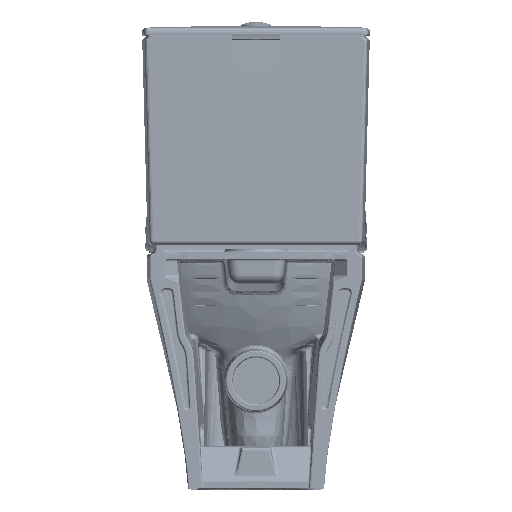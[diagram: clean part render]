
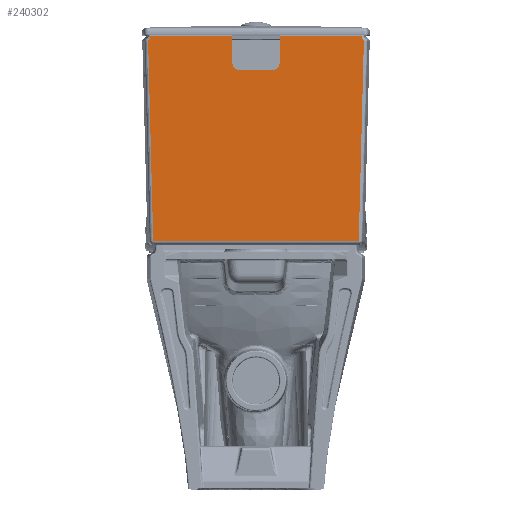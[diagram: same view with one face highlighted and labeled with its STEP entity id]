
A CAD part, left-side view. The second image highlights one B-rep face of the part: STEP entity #240302.
In plain terms, the highlighted planar face has unit normal (-1, 0, 0).
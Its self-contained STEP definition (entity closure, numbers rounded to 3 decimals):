
#239886=CARTESIAN_POINT('',(0.,174.027,19.));
#239887=VERTEX_POINT('',#239886);
#239888=CARTESIAN_POINT('',(0.,182.679,358.009));
#239889=VERTEX_POINT('',#239888);
#239890=CARTESIAN_POINT('',(0.,174.027,19.));
#239891=CARTESIAN_POINT('',(0.,175.758,86.802));
#239892=CARTESIAN_POINT('',(0.,177.488,154.604));
#239893=CARTESIAN_POINT('',(0.,179.218,222.405));
#239894=CARTESIAN_POINT('',(0.,180.949,290.207));
#239895=CARTESIAN_POINT('',(0.,182.679,358.009));
#239896=B_SPLINE_CURVE_WITH_KNOTS('',5,(#239890,#239891,#239892,#239893,#239894,#239895),.UNSPECIFIED.,.F.,.U.,(6,6),(131.193,470.313),.UNSPECIFIED.);
#239897=EDGE_CURVE('',#239887,#239889,#239896,.T.);
#240185=CARTESIAN_POINT('',(0.0,0.0,15.0));
#240186=DIRECTION('',(-1.0,0.0,0.0));
#240187=DIRECTION('',(0.0,0.0,1.0));
#240188=AXIS2_PLACEMENT_3D('',#240185,#240186,#240187);
#240189=PLANE('',#240188);
#240190=CARTESIAN_POINT('',(0.0,-40.0,320.0));
#240191=VERTEX_POINT('',#240190);
#240192=CARTESIAN_POINT('',(0.0,-28.,308.0));
#240193=VERTEX_POINT('',#240192);
#240194=CARTESIAN_POINT('',(0.0,-28.,320.0));
#240195=DIRECTION('',(-1.0,0.0,0.0));
#240196=DIRECTION('',(0.0,1.0,0.0));
#240197=AXIS2_PLACEMENT_3D('',#240194,#240195,#240196);
#240198=CIRCLE('',#240197,12.);
#240199=EDGE_CURVE('',#240191,#240193,#240198,.F.);
#240200=ORIENTED_EDGE('',*,*,#240199,.T.);
#240201=CARTESIAN_POINT('',(0.0,28.,308.0));
#240202=VERTEX_POINT('',#240201);
#240203=CARTESIAN_POINT('',(0.0,-28.,308.0));
#240204=DIRECTION('',(0.0,1.0,0.0));
#240205=VECTOR('',#240204,56.);
#240206=LINE('',#240203,#240205);
#240207=EDGE_CURVE('',#240193,#240202,#240206,.T.);
#240208=ORIENTED_EDGE('',*,*,#240207,.T.);
#240209=CARTESIAN_POINT('',(0.0,40.0,320.0));
#240210=VERTEX_POINT('',#240209);
#240211=CARTESIAN_POINT('',(0.0,28.,320.));
#240212=DIRECTION('',(1.0,0.0,0.0));
#240213=DIRECTION('',(0.0,1.0,0.0));
#240214=AXIS2_PLACEMENT_3D('',#240211,#240212,#240213);
#240215=CIRCLE('',#240214,12.);
#240216=EDGE_CURVE('',#240202,#240210,#240215,.T.);
#240217=ORIENTED_EDGE('',*,*,#240216,.T.);
#240218=CARTESIAN_POINT('',(0.0,40.0,366.));
#240219=VERTEX_POINT('',#240218);
#240220=CARTESIAN_POINT('',(0.0,40.0,320.0));
#240221=DIRECTION('',(0.0,0.0,1.0));
#240222=VECTOR('',#240221,46.);
#240223=LINE('',#240220,#240222);
#240224=EDGE_CURVE('',#240210,#240219,#240223,.T.);
#240225=ORIENTED_EDGE('',*,*,#240224,.T.);
#240226=CARTESIAN_POINT('',(0.,178.681,366.));
#240227=VERTEX_POINT('',#240226);
#240228=CARTESIAN_POINT('',(0.0,178.681,366.));
#240229=DIRECTION('',(0.0,-1.0,0.0));
#240230=VECTOR('',#240229,138.681);
#240231=LINE('',#240228,#240230);
#240232=EDGE_CURVE('',#240219,#240227,#240231,.F.);
#240233=ORIENTED_EDGE('',*,*,#240232,.T.);
#240234=CARTESIAN_POINT('',(0.0,178.841,364.475));
#240235=VERTEX_POINT('',#240234);
#240236=CARTESIAN_POINT('',(0.0,178.681,366.));
#240237=DIRECTION('',(0.0,0.105,-0.995));
#240238=VECTOR('',#240237,1.534);
#240239=LINE('',#240236,#240238);
#240240=EDGE_CURVE('',#240227,#240235,#240239,.T.);
#240241=ORIENTED_EDGE('',*,*,#240240,.T.);
#240242=CARTESIAN_POINT('',(0.,187.767,365.399));
#240243=DIRECTION('',(1.0,0.,0.));
#240244=DIRECTION('',(0.,-0.581,0.814));
#240245=AXIS2_PLACEMENT_3D('',#240242,#240243,#240244);
#240246=ELLIPSE('',#240245,8.986,8.97);
#240247=EDGE_CURVE('',#240235,#239889,#240246,.T.);
#240248=ORIENTED_EDGE('',*,*,#240247,.T.);
#240249=ORIENTED_EDGE('',*,*,#239897,.F.);
#240250=CARTESIAN_POINT('',(0.,-174.027,19.));
#240251=VERTEX_POINT('',#240250);
#240252=CARTESIAN_POINT('',(0.0,174.027,19.));
#240253=DIRECTION('',(0.0,-1.0,0.));
#240254=VECTOR('',#240253,348.055);
#240255=LINE('',#240252,#240254);
#240256=EDGE_CURVE('',#239887,#240251,#240255,.T.);
#240257=ORIENTED_EDGE('',*,*,#240256,.T.);
#240258=CARTESIAN_POINT('',(0.0,-182.679,358.009));
#240259=VERTEX_POINT('',#240258);
#240260=CARTESIAN_POINT('',(0.0,-174.027,19.0));
#240261=CARTESIAN_POINT('',(0.0,-175.758,86.802));
#240262=CARTESIAN_POINT('',(0.0,-177.488,154.604));
#240263=CARTESIAN_POINT('',(0.0,-179.218,222.406));
#240264=CARTESIAN_POINT('',(0.0,-180.949,290.207));
#240265=CARTESIAN_POINT('',(0.0,-182.679,358.009));
#240266=B_SPLINE_CURVE_WITH_KNOTS('',5,(#240260,#240261,#240262,#240263,#240264,#240265),.UNSPECIFIED.,.F.,.U.,(6,6),(0.0,479.588),.UNSPECIFIED.);
#240267=EDGE_CURVE('',#240251,#240259,#240266,.T.);
#240268=ORIENTED_EDGE('',*,*,#240267,.T.);
#240269=CARTESIAN_POINT('',(0.,-178.841,364.475));
#240270=VERTEX_POINT('',#240269);
#240271=CARTESIAN_POINT('',(0.,-187.767,365.399));
#240272=DIRECTION('',(-1.0,0.,0.));
#240273=DIRECTION('',(0.,-0.581,-0.814));
#240274=AXIS2_PLACEMENT_3D('',#240271,#240272,#240273);
#240275=ELLIPSE('',#240274,8.986,8.97);
#240276=EDGE_CURVE('',#240270,#240259,#240275,.T.);
#240277=ORIENTED_EDGE('',*,*,#240276,.F.);
#240278=CARTESIAN_POINT('',(0.,-178.681,366.));
#240279=VERTEX_POINT('',#240278);
#240280=CARTESIAN_POINT('',(0.0,-178.841,364.475));
#240281=DIRECTION('',(0.0,0.105,0.995));
#240282=VECTOR('',#240281,1.534);
#240283=LINE('',#240280,#240282);
#240284=EDGE_CURVE('',#240279,#240270,#240283,.F.);
#240285=ORIENTED_EDGE('',*,*,#240284,.F.);
#240286=CARTESIAN_POINT('',(0.0,-40.0,366.0));
#240287=VERTEX_POINT('',#240286);
#240288=CARTESIAN_POINT('',(0.0,-40.0,366.));
#240289=DIRECTION('',(0.0,-1.0,0.));
#240290=VECTOR('',#240289,138.681);
#240291=LINE('',#240288,#240290);
#240292=EDGE_CURVE('',#240287,#240279,#240291,.T.);
#240293=ORIENTED_EDGE('',*,*,#240292,.F.);
#240294=CARTESIAN_POINT('',(0.0,-40.0,320.0));
#240295=DIRECTION('',(0.0,0.0,1.0));
#240296=VECTOR('',#240295,46.0);
#240297=LINE('',#240294,#240296);
#240298=EDGE_CURVE('',#240191,#240287,#240297,.T.);
#240299=ORIENTED_EDGE('',*,*,#240298,.F.);
#240300=EDGE_LOOP('',(#240200,#240208,#240217,#240225,#240233,#240241,#240248,#240249,#240257,#240268,#240277,#240285,#240293,#240299));
#240301=FACE_OUTER_BOUND('',#240300,.T.);
#240302=ADVANCED_FACE('',(#240301),#240189,.T.);
